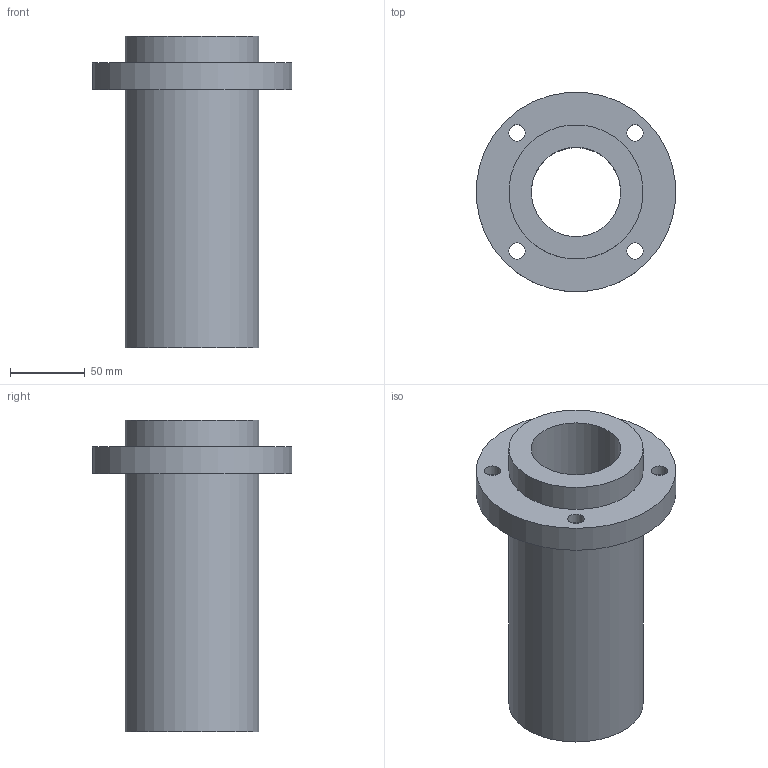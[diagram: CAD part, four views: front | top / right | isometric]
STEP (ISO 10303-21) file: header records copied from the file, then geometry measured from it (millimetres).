
FILE_DESCRIPTION(/* description */ (''),/* implementation_level */ '2;1');
FILE_NAME(/* name */ 'LMFP60LUU',/* time_stamp */ '2019-07-03T13:01:25+02:00',/* author */ ('VĂ©gh MĂˇtĂ©'),/* organization */ ('Bearing Kft'),/* preprocessor_version */ 'ST-DEVELOPER v16.7',/* originating_system */ 'DEX',/* authorisation */ $);
FILE_SCHEMA (('AUTOMOTIVE_DESIGN {1 0 10303 214 3 1 1}'));
Length unit declared in the file: millimetre
Products named in the file (1): LMFP60LUU
Bounding box: 133.49 x 133.49 x 209 mm (x, y, z)
Volume: 865280.1 mm3; surface area: 126148 mm2
Topology: 1 solids, 1 shells, 331 faces, 823 edges, 550 vertices
Faces by surface type: plane 255, bspline 63, cylinder 13
Full cylindrical faces by diameter (mm): 11 x4, 17 x4, 60 x1, 90 x2, 134 x1
Entity records: 13463 total; most frequent: CARTESIAN_POINT 5996, ORIENTED_EDGE 1606, DIRECTION 1241, EDGE_CURVE 803, LINE 651, VECTOR 651, VERTEX_POINT 546, EDGE_LOOP 413
